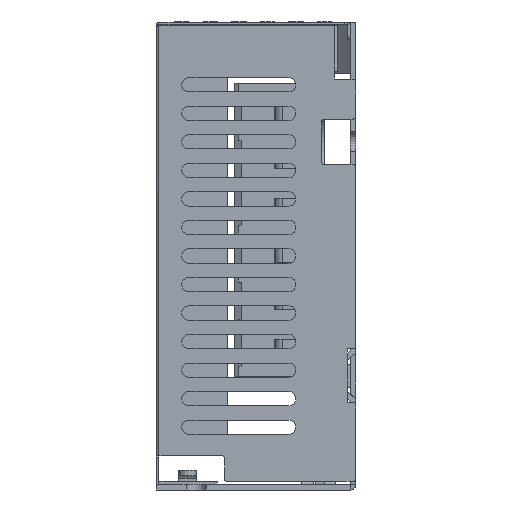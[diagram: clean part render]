
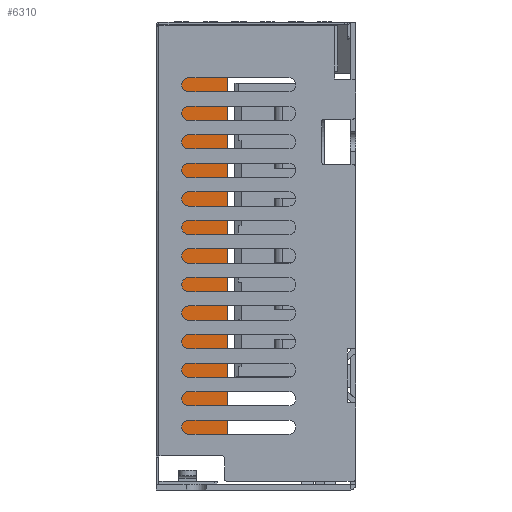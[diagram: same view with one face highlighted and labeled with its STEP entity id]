
A CAD part, left-side view. The second image highlights one B-rep face of the part: STEP entity #6310.
In plain terms, the highlighted planar face has unit normal (-1, 0, 0).
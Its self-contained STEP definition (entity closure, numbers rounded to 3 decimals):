
#6310 = ADVANCED_FACE ( 'NONE', ( #30362 ), #29858, .F. ) ;
#8627 = EDGE_CURVE ( 'NONE', #10330, #10329, #34827, .T. ) ;
#8923 = EDGE_CURVE ( 'NONE', #11754, #10330, #36081, .T. ) ;
#8926 = EDGE_CURVE ( 'NONE', #11756, #11754, #36829, .T. ) ;
#8929 = EDGE_CURVE ( 'NONE', #11758, #11756, #36099, .T. ) ;
#8932 = EDGE_CURVE ( 'NONE', #11760, #11758, #36831, .T. ) ;
#8934 = EDGE_CURVE ( 'NONE', #10329, #11760, #36114, .T. ) ;
#10329 = VERTEX_POINT ( 'NONE', #40678 ) ;
#10330 = VERTEX_POINT ( 'NONE', #40679 ) ;
#11754 = VERTEX_POINT ( 'NONE', #40866 ) ;
#11756 = VERTEX_POINT ( 'NONE', #40868 ) ;
#11758 = VERTEX_POINT ( 'NONE', #40870 ) ;
#11760 = VERTEX_POINT ( 'NONE', #40872 ) ;
#12358 = ORIENTED_EDGE ( 'NONE', *, *, #8929, .T. ) ;
#12359 = ORIENTED_EDGE ( 'NONE', *, *, #8627, .T. ) ;
#12360 = ORIENTED_EDGE ( 'NONE', *, *, #8934, .T. ) ;
#12361 = ORIENTED_EDGE ( 'NONE', *, *, #8932, .T. ) ;
#12362 = ORIENTED_EDGE ( 'NONE', *, *, #8926, .T. ) ;
#12363 = ORIENTED_EDGE ( 'NONE', *, *, #8923, .T. ) ;
#13922 = EDGE_LOOP ( 'NONE', ( #12359, #12360, #12361, #12358, #12362, #12363 ) ) ;
#29858 = PLANE ( 'NONE',  #30365 ) ;
#29859 = CARTESIAN_POINT ( 'NONE',  ( 83.5, -11.5, 71. ) ) ;
#29860 = DIRECTION ( 'NONE',  ( 1., 0., 0. ) ) ;
#29861 = DIRECTION ( 'NONE',  ( 0., 1., 0. ) ) ;
#30362 = FACE_OUTER_BOUND ( 'NONE', #13922, .T. ) ;
#30365 = AXIS2_PLACEMENT_3D ( 'NONE', #29859, #29860, #29861 ) ;
#34827 = LINE ( 'NONE', #34828, #35174 ) ;
#34828 = CARTESIAN_POINT ( 'NONE',  ( 83.5, 0., 71. ) ) ;
#34829 = DIRECTION ( 'NONE',  ( 0., 0., -1. ) ) ;
#35174 = VECTOR ( 'NONE', #34829, 1000. ) ;
#36071 = CARTESIAN_POINT ( 'NONE',  ( 83.5, -11.5, 71. ) ) ;
#36081 = LINE ( 'NONE', #36082, #36636 ) ;
#36082 = CARTESIAN_POINT ( 'NONE',  ( 83.5, -11.5, 71.5 ) ) ;
#36083 = DIRECTION ( 'NONE',  ( 0., 1., 0. ) ) ;
#36090 = DIRECTION ( 'NONE',  ( -1., 0., 0. ) ) ;
#36091 = DIRECTION ( 'NONE',  ( 0., 1., 0. ) ) ;
#36095 = CARTESIAN_POINT ( 'NONE',  ( 83.5, -11.5, 7. ) ) ;
#36099 = LINE ( 'NONE', #36100, #36642 ) ;
#36100 = CARTESIAN_POINT ( 'NONE',  ( 83.5, -12., 71. ) ) ;
#36101 = DIRECTION ( 'NONE',  ( 0., 0., 1. ) ) ;
#36108 = DIRECTION ( 'NONE',  ( -1., 0., 0. ) ) ;
#36109 = DIRECTION ( 'NONE',  ( 0., 1., 0. ) ) ;
#36114 = LINE ( 'NONE', #36115, #36646 ) ;
#36115 = CARTESIAN_POINT ( 'NONE',  ( 83.5, -11.5, 6.5 ) ) ;
#36116 = DIRECTION ( 'NONE',  ( 0., -1., 0. ) ) ;
#36636 = VECTOR ( 'NONE', #36083, 1000. ) ;
#36638 = AXIS2_PLACEMENT_3D ( 'NONE', #36071, #36090, #36091 ) ;
#36642 = VECTOR ( 'NONE', #36101, 1000. ) ;
#36644 = AXIS2_PLACEMENT_3D ( 'NONE', #36095, #36108, #36109 ) ;
#36646 = VECTOR ( 'NONE', #36116, 1000. ) ;
#36829 = CIRCLE ( 'NONE', #36638, 0.5 ) ;
#36831 = CIRCLE ( 'NONE', #36644, 0.5 ) ;
#40678 = CARTESIAN_POINT ( 'NONE',  ( 83.5, 0., 6.5 ) ) ;
#40679 = CARTESIAN_POINT ( 'NONE',  ( 83.5, 0., 71.5 ) ) ;
#40866 = CARTESIAN_POINT ( 'NONE',  ( 83.5, -11.5, 71.5 ) ) ;
#40868 = CARTESIAN_POINT ( 'NONE',  ( 83.5, -12., 71. ) ) ;
#40870 = CARTESIAN_POINT ( 'NONE',  ( 83.5, -12., 7. ) ) ;
#40872 = CARTESIAN_POINT ( 'NONE',  ( 83.5, -11.5, 6.5 ) ) ;
